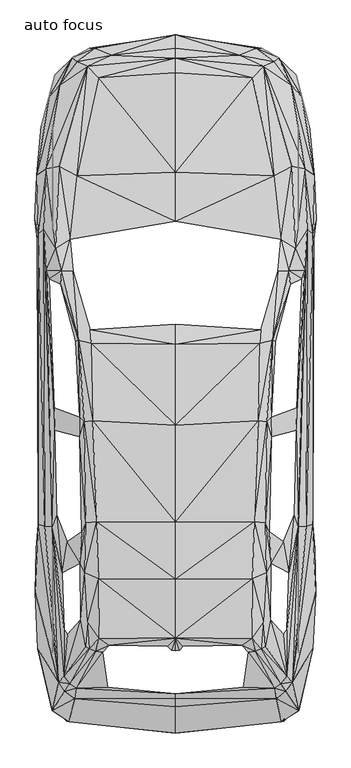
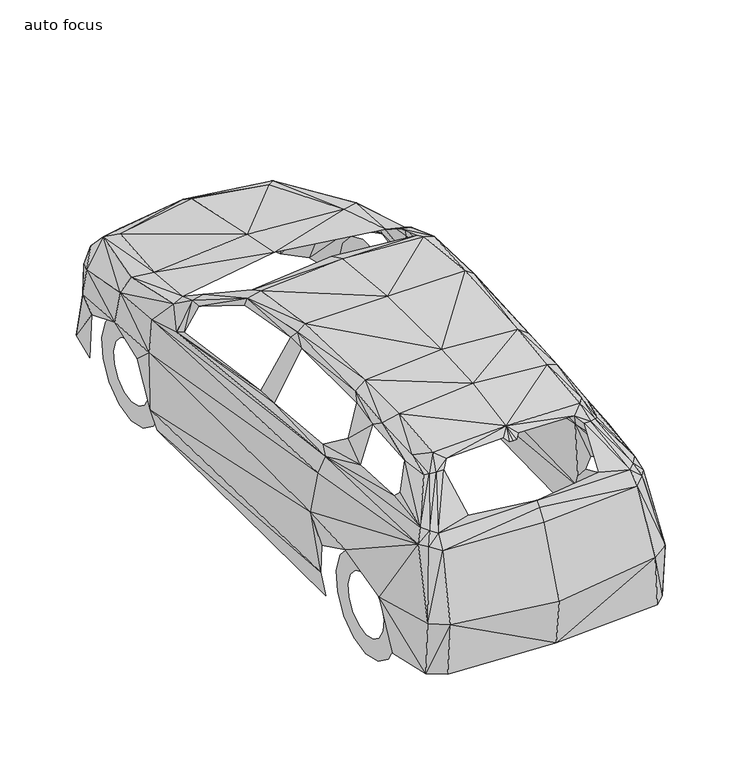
"""IFC4 building model written with IfcOpenShell, lengths in millimetres: proxy geometry, M_RPC maschio : auto focus."""

from ifc_helpers import new_model, si_unit, origin, place, context, project, spatial, triangles, source, transform, mapped, element, save


def auto_focus_0fb7b8e4(model_context):
    return source(origin(), model_context, "Body", "Tessellation", [
        triangles([(0.0, 1735.8819798, 1425.0776951), (0.0, -842.8502249, 602.2540821), (0.0, -677.4582853, 1046.4481899), (0.0, -810.3734282, 294.0300905), (0.0, -246.4240937, 1454.0765064), (0.0, 126.9414795, 1522.4140503), (0.0, -622.7506508, 1117.5587477), (0.0, -594.7858243, 1150.1765242), (0.0, -322.6106134, 1395.2330051), (0.0, 1607.9958904, 1484.2973362), (0.0, 1098.4721947, 1534.775069), (0.0, 486.0661523, 1539.2870029), (0.0, 2693.500708, 998.1794792), (0.0, 3320.6647522, 861.0813795), (0.0, 3476.2337448, 716.6513145), (0.0, 3560.7390518, 570.8582877), (0.0, 3414.617157, 801.8147936), (0.0, 3560.034153, 218.1725842), (0.0, 2384.2428406, 1060.4070763), (538.7574855, 1699.5042583, 1404.3509079), (533.9635194, 1616.0327545, 1447.0735909), (874.6173265, 2274.7335365, 342.1577851), (844.0675198, 398.7407049, 346.1527448), (867.3323788, 473.7992048, 727.6492624), (867.5673935, 2302.2283699, 716.369355), (777.5629309, 457.7723125, 1087.3379179), (825.9726213, 461.4382951, 990.0015627), (816.5256689, 2075.2198425, 978.8156176), (630.030875, 1627.1246647, 1371.2161572), (611.7010345, 1633.4226814, 1411.9648327), (777.9859428, -701.1931738, 632.0989174), (669.9806168, -772.5856911, 629.9839302), (636.9398283, -626.7926279, 1041.7012413), (886.6962404, 46.524999, 727.9312946), (869.024354, -310.4377009, 610.3380363), (686.1485252, -767.6037277, 290.7401024), (827.0066425, -392.7341311, 259.6733213), (773.4740089, -674.2623322, 267.3342636), (811.1677111, 395.1687209, 172.3948733), (881.0562504, 323.7762036, 590.1281507), (482.0288624, -244.7791178, 1439.0365814), (485.9298597, 129.4324611, 1479.0803581), (556.0533774, -139.9697903, 1384.799049), (681.4955389, -220.9502671, 1217.6210993), (702.5984659, -191.10545, 1183.0763329), (573.3962869, 169.3351945, 1424.7487907), (427.6502048, -554.0371124, 1169.9633978), (597.9301091, -127.1388784, 1351.8522228), (702.5514484, -484.1485368, 1140.494557), (567.5213184, -294.4577897, 1344.4262226), (628.526897, -560.4290551, 1121.788722), (667.0196783, -531.5712599, 1134.3846102), (737.2371946, -521.6072968, 1059.561125), (698.6974686, -579.0409278, 1064.5901058), (419.6602856, -290.5568105, 1404.5388325), (459.3750126, -334.3135328, 1362.4741035), (25.4738335, -321.059618, 1396.8779629), (48.6916818, -295.3507766, 1417.9337997), (505.2937214, -326.9345864, 1357.4451954), (544.1154797, -311.4716858, 1350.3013), (604.4630679, 1026.7976452, 1429.2137798), (766.5650557, 1208.7804325, 1081.2279711), (716.1813578, 169.5231917, 1184.0633366), (591.6791462, 427.8805324, 1410.6018345), (682.5765776, 363.7259454, 1236.044902), (601.1260986, 229.4948037, 1385.2689331), (750.1621325, 535.0398345, 1114.5507917), (762.0530491, 1065.901363, 1082.0269775), (523.3416023, 1127.471006, 1510.0062321), (497.7737589, 489.5911188, 1500.9822189), (567.2863037, 482.8231453, 1454.0295616), (577.5322626, 1119.1990545, 1474.3334095), (605.8260661, 1148.3388456, 1433.490699), (484.8958385, 3289.3628838, 807.4547836), (620.301963, 2672.4450165, 964.668734), (555.5364032, 3363.9045547, 766.1889885), (735.9682314, 2731.5236778, 932.9909437), (815.7736799, 2717.6585358, 863.7134136), (876.2622843, 2677.0040405, 702.9274429), (652.3087303, 3417.6251129, 577.015252), (545.3844429, 3476.6566841, 252.5763526), (511.2626884, 3478.1135719, 584.1122025), (402.8343867, 3432.6180931, 730.6102736), (762.7580206, 3307.8338493, 192.9807534), (638.8198734, 3425.0511131, 194.57873), (732.7252607, 3241.8463074, 673.9286316), (620.8659548, 3390.4122391, 710.9643797), (813.84669, 3066.4904411, 200.2657012), (888.1062561, 2398.8596809, 625.7539558), (846.7935162, 2987.2019669, 556.899365), (830.390593, 2274.4044868, 186.4007953), (798.8537825, 3170.9236015, 570.6702905), (647.0918249, 2071.5537872, 1185.5673145), (664.8576736, 2272.0544849, 1055.4251129), (717.5913734, 2074.7498131, 1167.3783812), (755.8490673, 2214.1979874, 1071.9690159), (724.0773148, 1986.5784508, 1180.6793135), (797.9137962, 2022.6271225, 1003.4434748), (832.2705654, 2334.3291721, 913.2510876), (-538.7574855, 1699.5042583, 1404.3509079), (-533.9635194, 1616.0327545, 1447.0735909), (-874.6173265, 2274.7335365, 342.1577851), (-844.0675198, 398.7407049, 346.1527448), (-867.3323788, 473.7992048, 727.6492624), (-867.5673935, 2302.2283699, 716.369355), (-777.5629309, 457.7723125, 1087.3379179), (-825.9726213, 461.4382951, 990.0015627), (-816.5256689, 2075.2198425, 978.8156176), (-630.030875, 1627.1246647, 1371.2161572), (-611.7010345, 1633.4226814, 1411.9648327), (-777.9859428, -701.1931738, 632.0989174), (-669.9806168, -772.5856911, 629.9839302), (-636.9398283, -626.7926279, 1041.7012413), (-886.6962404, 46.524999, 727.9312946), (-869.024354, -310.4377009, 610.3380363), (-686.1485252, -767.6037277, 290.7401024), (-827.0066425, -392.7341311, 259.6733213), (-773.4740089, -674.2623322, 267.3342636), (-811.1677111, 395.1687209, 172.3948733), (-881.0562504, 323.7762036, 590.1281507), (-482.0288624, -244.7791178, 1439.0365814), (-485.9298597, 129.4324611, 1479.0803581), (-556.0533774, -139.9697903, 1384.799049), (-681.4955389, -220.9502671, 1217.6210993), (-702.5984659, -191.10545, 1183.0763329), (-573.3962869, 169.3351945, 1424.7487907), (-427.6502048, -554.0371124, 1169.9633978), (-597.9301091, -127.1388784, 1351.8522228), (-702.5514484, -484.1485368, 1140.494557), (-567.5213184, -294.4577897, 1344.4262226), (-628.526897, -560.4290551, 1121.788722), (-667.0196783, -531.5712599, 1134.3846102), (-737.2371946, -521.6072968, 1059.561125), (-698.6974686, -579.0409278, 1064.5901058), (-419.6602856, -290.5568105, 1404.5388325), (-459.3750126, -334.3135328, 1362.4741035), (-25.4738335, -321.059618, 1396.8779629), (-48.6916818, -295.3507766, 1417.9337997), (-505.2937214, -326.9345864, 1357.4451954), (-544.1154797, -311.4716858, 1350.3013), (-604.4630679, 1026.7976452, 1429.2137798), (-766.5650557, 1208.7804325, 1081.2279711), (-716.1813578, 169.5231917, 1184.0633366), (-591.6791462, 427.8805324, 1410.6018345), (-682.5765776, 363.7259454, 1236.044902), (-601.1260986, 229.4948037, 1385.2689331), (-750.1621325, 535.0398345, 1114.5507917), (-762.0530491, 1065.901363, 1082.0269775), (-523.3416023, 1127.471006, 1510.0062321), (-497.7737589, 489.5911188, 1500.9822189), (-567.2863037, 482.8231453, 1454.0295616), (-577.5322626, 1119.1990545, 1474.3334095), (-605.8260661, 1148.3388456, 1433.490699), (-484.8958385, 3289.3628838, 807.4547836), (-620.301963, 2672.4450165, 964.668734), (-555.5364032, 3363.9045547, 766.1889885), (-735.9682314, 2731.5236778, 932.9909437), (-815.7736799, 2717.6585358, 863.7134136), (-876.2622843, 2677.0040405, 702.9274429), (-652.3087303, 3417.6251129, 577.015252), (-545.3844429, 3476.6566841, 252.5763526), (-511.2626884, 3478.1135719, 584.1122025), (-402.8343867, 3432.6180931, 730.6102736), (-762.7580206, 3307.8338493, 192.9807534), (-638.8198734, 3425.0511131, 194.57873), (-732.7252607, 3241.8463074, 673.9286316), (-620.8659548, 3390.4122391, 710.9643797), (-813.84669, 3066.4904411, 200.2657012), (-888.1062561, 2398.8596809, 625.7539558), (-846.7935162, 2987.2019669, 556.899365), (-830.390593, 2274.4044868, 186.4007953), (-798.8537825, 3170.9236015, 570.6702905), (-647.0918249, 2071.5537872, 1185.5673145), (-664.8576736, 2272.0544849, 1055.4251129), (-717.5913734, 2074.7498131, 1167.3783812), (-755.8490673, 2214.1979874, 1071.9690159), (-724.0773148, 1986.5784508, 1180.6793135), (-797.9137962, 2022.6271225, 1003.4434748), (-832.2705654, 2334.3291721, 913.2510876), (-776.8438614, 2659.9617668, 0.0047), (-776.8438614, 2659.9617668, 131.1338471), (-776.8438614, 2797.1539742, 29.1445101), (-776.8438614, 2743.8092651, 148.9467315), (-776.8438614, 2910.611293, 111.5819791), (-776.8438614, 2813.1809029, 199.3304021), (-776.8438614, 2980.7346291, 233.0761803), (-776.8438614, 2856.0445656, 273.5899137), (-776.8438614, 2995.3985596, 372.571263), (-776.8438614, 2864.9745438, 358.8473551), (-776.8438614, 2952.0648674, 505.956399), (-776.8438614, 2838.5136589, 440.3918326), (-776.8438614, 2858.2066429, 610.1547626), (-776.8438614, 2781.1270454, 504.0764265), (-776.8438614, 2730.0853935, 667.2123991), (-776.8438614, 2702.8254295, 538.9502063), (-776.8438614, 2589.8381401, 667.2123991), (-776.8438614, 2617.0981041, 538.9502063), (-776.8438614, 2461.7171814, 610.1547626), (-776.8438614, 2538.7964882, 504.0764265), (-776.8438614, 2367.8586662, 505.956399), (-776.8438614, 2481.4098747, 440.3918326), (-776.8438614, 2324.5249741, 372.571263), (-776.8438614, 2454.9492805, 358.8473551), (-776.8438614, 2339.1889046, 233.0761803), (-776.8438614, 2463.878968, 273.5899137), (-776.8438614, 2409.3123859, 111.5819791), (-776.8438614, 2506.7429214, 199.3304021), (-776.8438614, 2522.7698502, 29.1445101), (-776.8438614, 2576.1142685, 148.9467315), (776.8438614, 2659.9617668, 0.0047), (776.8438614, 2659.9617668, 131.1338471), (776.8438614, 2522.7698502, 29.1445101), (776.8438614, 2576.1142685, 148.9467315), (776.8438614, 2409.3123859, 111.5819791), (776.8438614, 2506.7429214, 199.3304021), (776.8438614, 2339.1889046, 233.0761803), (776.8438614, 2463.878968, 273.5899137), (776.8438614, 2324.5249741, 372.571263), (776.8438614, 2454.9492805, 358.8473551), (776.8438614, 2367.8586662, 505.956399), (776.8438614, 2481.4098747, 440.3918326), (776.8438614, 2461.7171814, 610.1547626), (776.8438614, 2538.7964882, 504.0764265), (776.8438614, 2589.8381401, 667.2123991), (776.8438614, 2617.0981041, 538.9502063), (776.8438614, 2730.0853935, 667.2123991), (776.8438614, 2702.8254295, 538.9502063), (776.8438614, 2858.2066429, 610.1547626), (776.8438614, 2781.1270454, 504.0764265), (776.8438614, 2952.0648674, 505.956399), (776.8438614, 2838.5136589, 440.3918326), (776.8438614, 2995.3985596, 372.571263), (776.8438614, 2864.9745438, 358.8473551), (776.8438614, 2980.7346291, 233.0761803), (776.8438614, 2856.0445656, 273.5899137), (776.8438614, 2910.611293, 111.5819791), (776.8438614, 2813.1809029, 199.3304021), (776.8438614, 2797.1539742, 29.1445101), (776.8438614, 2743.8092651, 148.9467315), (-776.8391378, 0.0, 0.0047), (-776.8391378, 0.0, 131.1338471), (-776.8391378, 137.1921074, 29.1445101), (-776.8391378, 83.8474529, 148.9467315), (-776.8391378, 250.6493627, 111.5819791), (-776.8391378, 153.2190089, 199.3304021), (-776.8391378, 320.7728986, 233.0761803), (-776.8391378, 196.0827261, 273.5899137), (-776.8391378, 335.4368291, 372.571263), (-776.8391378, 205.0126679, 358.8473551), (-776.8391378, 292.1031006, 505.956399), (-776.8391378, 178.5518376, 440.3918326), (-776.8391378, 198.2447126, 610.1547626), (-776.8391378, 121.165215, 504.0764265), (-776.8391378, 70.123545, 667.2123991), (-776.8391378, 42.8637218, 538.9502063), (-776.8391378, -70.123545, 667.2123991), (-776.8391378, -42.8637218, 538.9502063), (-776.8391378, -198.2447126, 610.1547626), (-776.8391378, -121.165215, 504.0764265), (-776.8391378, -292.1031006, 505.956399), (-776.8391378, -178.5518376, 440.3918326), (-776.8391378, -335.4368291, 372.571263), (-776.8391378, -205.0126679, 358.8473551), (-776.8391378, -320.7728986, 233.0761803), (-776.8391378, -196.0827261, 273.5899137), (-776.8391378, -250.6493627, 111.5819791), (-776.8391378, -153.2190089, 199.3304021), (-776.8391378, -137.1921074, 29.1445101), (-776.8391378, -83.8474529, 148.9467315), (776.8391378, 0.0, 0.0047), (776.8391378, 0.0, 131.1338471), (776.8391378, -137.1921074, 29.1445101), (776.8391378, -83.8474529, 148.9467315), (776.8391378, -250.6493627, 111.5819791), (776.8391378, -153.2190089, 199.3304021), (776.8391378, -320.7728986, 233.0761803), (776.8391378, -196.0827261, 273.5899137), (776.8391378, -335.4368291, 372.571263), (776.8391378, -205.0126679, 358.8473551), (776.8391378, -292.1031006, 505.956399), (776.8391378, -178.5518376, 440.3918326), (776.8391378, -198.2447126, 610.1547626), (776.8391378, -121.165215, 504.0764265), (776.8391378, -70.123545, 667.2123991), (776.8391378, -42.8637218, 538.9502063), (776.8391378, 70.123545, 667.2123991), (776.8391378, 42.8637218, 538.9502063), (776.8391378, 198.2447126, 610.1547626), (776.8391378, 121.165215, 504.0764265), (776.8391378, 292.1031006, 505.956399), (776.8391378, 178.5518376, 440.3918326), (776.8391378, 335.4368291, 372.571263), (776.8391378, 205.0126679, 358.8473551), (776.8391378, 320.7728986, 233.0761803), (776.8391378, 196.0827261, 273.5899137), (776.8391378, 250.6493627, 111.5819791), (776.8391378, 153.2190089, 199.3304021), (776.8391378, 137.1921074, 29.1445101), (776.8391378, 83.8474529, 148.9467315)], [[20, 1, 10], [20, 10, 21], [91, 22, 23], [91, 23, 39], [22, 25, 24], [22, 24, 23], [25, 99, 27], [25, 27, 24], [99, 28, 26], [99, 26, 27], [62, 68, 28], [62, 28, 98], [20, 21, 30], [33, 32, 31], [33, 31, 54], [24, 53, 34], [24, 34, 40], [32, 33, 3], [2, 32, 3], [32, 2, 4], [32, 4, 36], [35, 31, 38], [35, 38, 37], [31, 32, 38], [32, 36, 38], [23, 24, 40], [5, 41, 42], [6, 5, 42], [45, 49, 26], [41, 43, 42], [43, 46, 42], [43, 50, 48], [50, 49, 48], [49, 44, 48], [52, 51, 54], [51, 33, 54], [44, 49, 45], [51, 7, 33], [33, 7, 3], [47, 8, 51], [8, 7, 51], [52, 54, 53], [52, 53, 49], [49, 53, 26], [53, 27, 26], [54, 31, 53], [35, 53, 31], [34, 53, 35], [55, 41, 5], [58, 55, 5], [57, 58, 5], [57, 5, 9], [43, 60, 50], [60, 52, 49], [60, 49, 50], [59, 51, 52], [59, 52, 60], [47, 51, 56], [51, 59, 56], [55, 59, 41], [56, 59, 55], [60, 43, 41], [59, 60, 41], [62, 73, 61], [62, 61, 68], [65, 64, 66], [65, 66, 63], [26, 68, 67], [67, 63, 26], [67, 65, 63], [45, 26, 63], [24, 27, 53], [28, 68, 26], [12, 70, 69], [11, 12, 69], [70, 71, 72], [70, 72, 69], [61, 72, 71], [61, 71, 64], [71, 46, 66], [46, 43, 48], [66, 46, 48], [42, 46, 70], [46, 71, 70], [71, 66, 64], [6, 42, 70], [12, 6, 70], [69, 72, 30], [69, 30, 21], [72, 61, 73], [30, 72, 73], [29, 30, 73], [11, 69, 21], [10, 11, 21], [19, 75, 13], [13, 74, 14], [14, 74, 17], [74, 76, 17], [76, 74, 75], [77, 76, 75], [25, 79, 78], [99, 25, 78], [82, 80, 81], [80, 85, 81], [82, 83, 87], [82, 87, 80], [15, 83, 16], [83, 82, 16], [76, 86, 87], [83, 15, 17], [83, 17, 76], [83, 76, 87], [89, 25, 22], [79, 25, 89], [80, 87, 86], [80, 86, 92], [92, 86, 79], [92, 79, 90], [85, 80, 92], [85, 92, 84], [84, 92, 90], [84, 90, 88], [86, 78, 79], [78, 76, 77], [86, 76, 78], [16, 82, 18], [82, 81, 18], [74, 13, 75], [94, 75, 19], [93, 20, 30], [93, 30, 95], [96, 95, 28], [95, 97, 98], [28, 95, 98], [96, 78, 77], [99, 78, 96], [28, 99, 96], [94, 96, 77], [94, 77, 75], [94, 93, 95], [94, 95, 96], [97, 95, 30], [97, 30, 29], [100, 10, 1], [100, 101, 10], [171, 103, 102], [171, 119, 103], [102, 104, 105], [102, 103, 104], [105, 107, 179], [105, 104, 107], [179, 106, 108], [179, 107, 106], [142, 108, 148], [142, 178, 108], [100, 110, 101], [113, 111, 112], [113, 134, 111], [104, 114, 133], [104, 120, 114], [112, 3, 113], [2, 3, 112], [112, 4, 2], [112, 116, 4], [115, 118, 111], [115, 117, 118], [111, 118, 112], [112, 118, 116], [103, 120, 104], [5, 122, 121], [6, 122, 5], [125, 106, 129], [121, 122, 123], [123, 122, 126], [123, 128, 130], [130, 128, 129], [129, 128, 124], [132, 134, 131], [131, 134, 113], [124, 125, 129], [131, 113, 7], [113, 3, 7], [127, 131, 8], [8, 131, 7], [132, 133, 134], [132, 129, 133], [129, 106, 133], [133, 106, 107], [134, 133, 111], [115, 111, 133], [114, 115, 133], [135, 5, 121], [138, 5, 135], [137, 5, 138], [137, 9, 5], [123, 130, 140], [140, 129, 132], [140, 130, 129], [139, 132, 131], [139, 140, 132], [127, 136, 131], [131, 136, 139], [135, 121, 139], [136, 135, 139], [140, 121, 123], [139, 121, 140], [142, 141, 153], [142, 148, 141], [145, 146, 144], [145, 143, 146], [106, 147, 148], [147, 106, 143], [147, 143, 145], [125, 143, 106], [104, 133, 107], [108, 106, 148], [12, 149, 150], [11, 149, 12], [150, 152, 151], [150, 149, 152], [141, 151, 152], [141, 144, 151], [151, 146, 126], [126, 128, 123], [146, 128, 126], [122, 150, 126], [126, 150, 151], [151, 144, 146], [6, 150, 122], [12, 150, 6], [149, 110, 152], [149, 101, 110], [152, 153, 141], [110, 153, 152], [109, 153, 110], [11, 101, 149], [10, 101, 11], [19, 13, 155], [13, 14, 154], [14, 17, 154], [154, 17, 156], [156, 155, 154], [157, 155, 156], [105, 158, 159], [179, 158, 105], [162, 161, 160], [160, 161, 165], [162, 167, 163], [162, 160, 167], [15, 16, 163], [163, 16, 162], [156, 167, 166], [163, 17, 15], [163, 156, 17], [163, 167, 156], [169, 102, 105], [159, 169, 105], [160, 166, 167], [160, 172, 166], [172, 159, 166], [172, 170, 159], [165, 172, 160], [165, 164, 172], [164, 170, 172], [164, 168, 170], [166, 159, 158], [158, 157, 156], [166, 158, 156], [16, 18, 162], [162, 18, 161], [154, 155, 13], [174, 19, 155], [173, 110, 100], [173, 175, 110], [176, 108, 175], [175, 178, 177], [108, 178, 175], [176, 157, 158], [179, 176, 158], [108, 176, 179], [174, 157, 176], [174, 155, 157], [174, 175, 173], [174, 176, 175], [177, 110, 175], [177, 109, 110], [180, 183, 182], [180, 181, 183], [182, 185, 184], [182, 183, 185], [184, 187, 186], [184, 185, 187], [186, 189, 188], [186, 187, 189], [188, 191, 190], [188, 189, 191], [190, 193, 192], [190, 191, 193], [192, 195, 194], [192, 193, 195], [194, 197, 196], [194, 195, 197], [196, 199, 198], [196, 197, 199], [198, 201, 200], [198, 199, 201], [200, 203, 202], [200, 201, 203], [202, 205, 204], [202, 203, 205], [204, 207, 206], [204, 205, 207], [206, 209, 208], [206, 207, 209], [208, 181, 180], [208, 209, 181], [210, 213, 212], [210, 211, 213], [212, 215, 214], [212, 213, 215], [214, 217, 216], [214, 215, 217], [216, 219, 218], [216, 217, 219], [218, 221, 220], [218, 219, 221], [220, 223, 222], [220, 221, 223], [222, 225, 224], [222, 223, 225], [224, 227, 226], [224, 225, 227], [226, 229, 228], [226, 227, 229], [228, 231, 230], [228, 229, 231], [230, 233, 232], [230, 231, 233], [232, 235, 234], [232, 233, 235], [234, 237, 236], [234, 235, 237], [236, 239, 238], [236, 237, 239], [238, 211, 210], [238, 239, 211], [240, 243, 242], [240, 241, 243], [242, 245, 244], [242, 243, 245], [244, 247, 246], [244, 245, 247], [246, 249, 248], [246, 247, 249], [248, 251, 250], [248, 249, 251], [250, 253, 252], [250, 251, 253], [252, 255, 254], [252, 253, 255], [254, 257, 256], [254, 255, 257], [256, 259, 258], [256, 257, 259], [258, 261, 260], [258, 259, 261], [260, 263, 262], [260, 261, 263], [262, 265, 264], [262, 263, 265], [264, 267, 266], [264, 265, 267], [266, 269, 268], [266, 267, 269], [268, 241, 240], [268, 269, 241], [270, 273, 272], [270, 271, 273], [272, 275, 274], [272, 273, 275], [274, 277, 276], [274, 275, 277], [276, 279, 278], [276, 277, 279], [278, 281, 280], [278, 279, 281], [280, 283, 282], [280, 281, 283], [282, 285, 284], [282, 283, 285], [284, 287, 286], [284, 285, 287], [286, 289, 288], [286, 287, 289], [288, 291, 290], [288, 289, 291], [290, 293, 292], [290, 291, 293], [292, 295, 294], [292, 293, 295], [294, 297, 296], [294, 295, 297], [296, 299, 298], [296, 297, 299], [298, 271, 270], [298, 299, 271]], closed=False),
    ])


if __name__ == "__main__":
    model = new_model("IFC4")
    model_context = context("Model", 3, world=origin())
    ifc_project = project(units=[si_unit("LENGTHUNIT", "METRE", prefix="MILLI")], contexts=[model_context])
    site = spatial("IfcSite", under=ifc_project)
    building = spatial("IfcBuilding", under=site)
    placement = place(None, origin())
    auto_focus_shape = auto_focus_0fb7b8e4(model_context)
    element("IfcBuildingElementProxy", 1, Name="M_RPC maschio : auto focus", ObjectType="M_RPC maschio : auto focus", at=placement, inside=building, context=model_context, shape_type="MappedRepresentation", body=[
        mapped(auto_focus_shape, transform((0.0, 0.0, 0.0), x_axis=(1.0, 0.0, 0.0), y_axis=(0.0, 1.0, 0.0), z_axis=(0.0, 0.0, 1.0))),
    ])
    save(model, "model.ifc")
